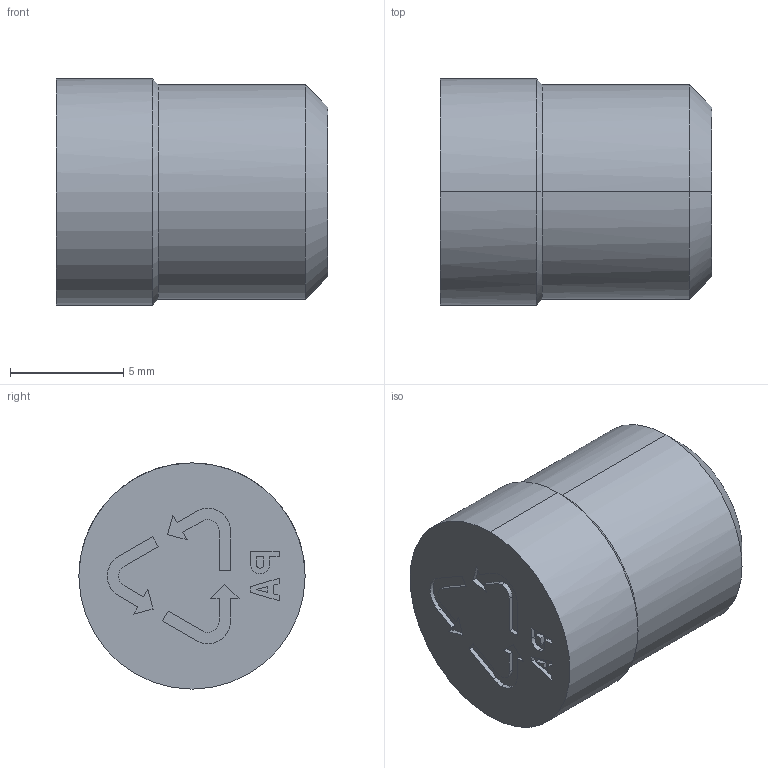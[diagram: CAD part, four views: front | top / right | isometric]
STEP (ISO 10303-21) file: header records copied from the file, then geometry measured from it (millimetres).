
FILE_DESCRIPTION(('CATIA V5 STEP Exchange'),'2;1');
FILE_NAME('C:\Users\Utente\Desktop\IO LAVORO\3D X SITO CF\X SITO\PLASTICA\CFMR\MPA10.stp','2021-03-26T14:24:53+00:00',('none'),('none'),'CATIA Version 5 Release 20 GA (IN-10)','CATIA V5 STEP AP203','none');
FILE_SCHEMA(('CONFIG_CONTROL_DESIGN'));
Length unit declared in the file: millimetre
Products named in the file (1): MPA10
Bounding box: 12 x 10 x 10 mm (x, y, z)
Volume: 811.4 mm3; surface area: 573.5 mm2
Topology: 1 solids, 1 shells, 83 faces, 228 edges, 153 vertices
Faces by surface type: plane 55, cylinder 20, cone 8
Entity records: 2688 total; most frequent: CARTESIAN_POINT 557, ORIENTED_EDGE 452, DIRECTION 380, EDGE_CURVE 226, VECTOR 166, LINE 166, VERTEX_POINT 153, AXIS2_PLACEMENT_3D 132
